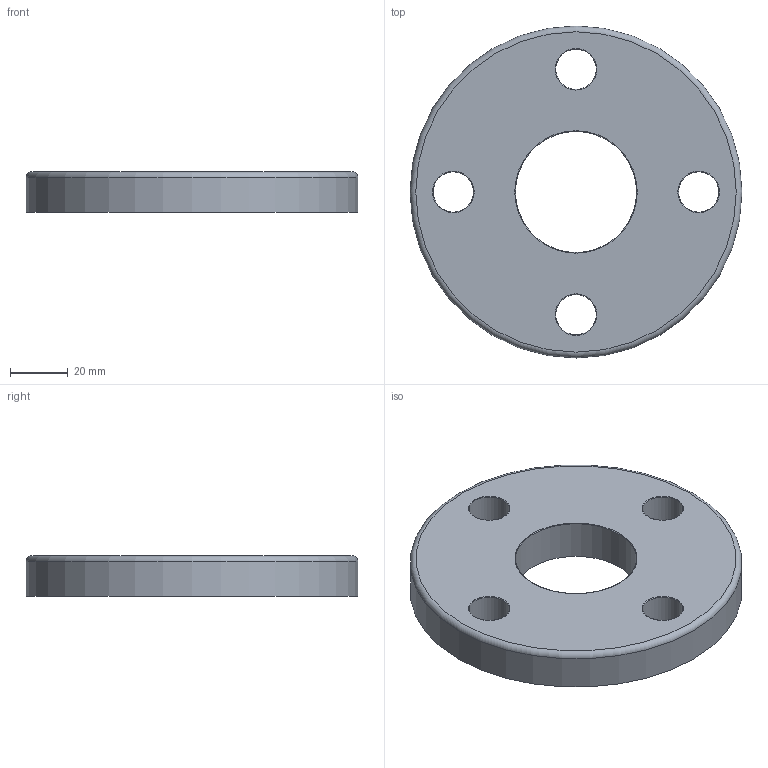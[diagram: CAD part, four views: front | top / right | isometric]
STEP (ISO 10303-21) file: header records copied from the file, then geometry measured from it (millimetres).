
FILE_DESCRIPTION(/* description */ ('PVC-U flangia libera BS 4504 DIN 8063 / PVC-U backing ring drilled to BS 4504 DIN 8063'),/* implementation_level */ '2;1');
FILE_NAME(/* name */ 'C:\Users\POLYPIPE\Desktop\DATASET INVENTOR\LIBRERIA EFFAST\RACCORDI 3DxWEB\RDR\3D_RDRFLD\3D_RDRFLD0320.stp',/* time_stamp */ '2018-01-19T14:21:50+01:00',/* author */ ('POLYPIPE'),/* organization */ ('Polypipe Italia s.r.l.'),/* preprocessor_version */ 'ST-DEVELOPER v16.1',/* originating_system */ 'Autodesk Inventor 2016',/* authorisation */ '');
FILE_SCHEMA (('CONFIG_CONTROL_DESIGN'));
Length unit declared in the file: millimetre
Products named in the file (1): 3D_RDRFLD
Bounding box: 115 x 115 x 14 mm (x, y, z)
Volume: 117089.4 mm3; surface area: 25801.4 mm2
Topology: 1 solids, 1 shells, 14 faces, 30 edges, 18 vertices
Faces by surface type: torus 6, cylinder 6, plane 2
Full cylindrical faces by diameter (mm): 14 x4, 42 x1, 115 x1
Entity records: 368 total; most frequent: DIRECTION 66, CARTESIAN_POINT 51, EDGE_LOOP 36, ORIENTED_EDGE 36, AXIS2_PLACEMENT_3D 33, FACE_BOUND 22, CIRCLE 18, VERTEX_POINT 18
